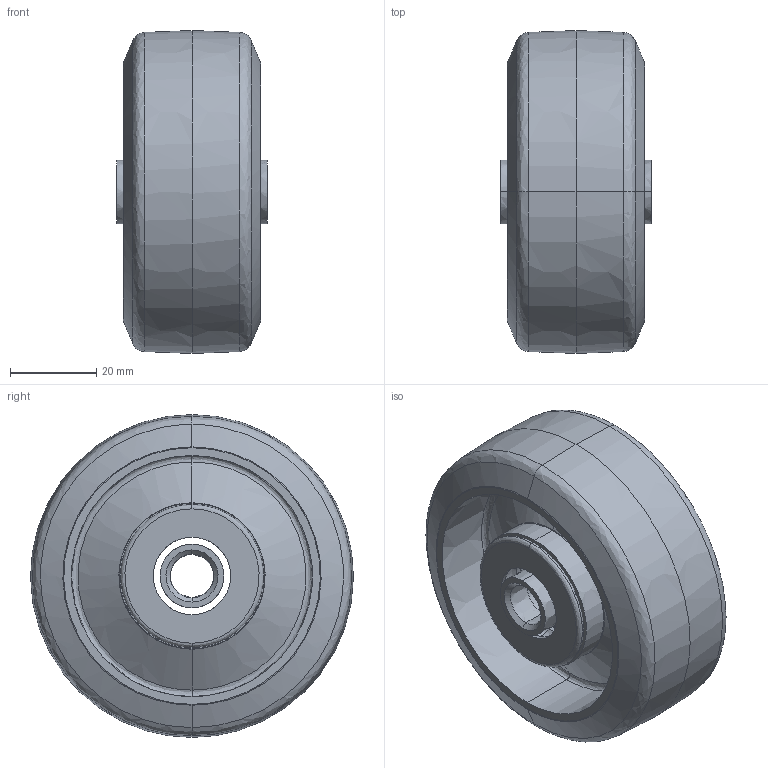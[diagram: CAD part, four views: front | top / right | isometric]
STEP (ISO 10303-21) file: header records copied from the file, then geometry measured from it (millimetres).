
FILE_DESCRIPTION (( 'STEP AP214' ), '1' );
FILE_NAME ('P-75W-3D_step.STEP', '2022-04-14T02:36:17', ( '' ), ( '' ), 'SwSTEP 2.0', 'SolidWorks 2010', '' );
FILE_SCHEMA (( 'AUTOMOTIVE_DESIGN' ));
Length unit declared in the file: millimetre
Products named in the file (5): P-75W-10; P-75W-11; P-75W-12; P-75W-13; P-75W-3D_step
Assembly tree (4 placements, depth 2):
  P-75W-3D_step
    P-75W-11
    P-75W-12
    P-75W-10
    P-75W-13
Bounding box: 35 x 74.99 x 75 mm (x, y, z)
Volume: 73466.5 mm3; surface area: 49234.1 mm2
Topology: 9 solids, 9 shells, 188 faces, 376 edges, 208 vertices
Faces by surface type: bspline 168, plane 20
Entity records: 30067 total; most frequent: CARTESIAN_POINT 27035, ORIENTED_EDGE 752, EDGE_CURVE 376, B_SPLINE_CURVE_WITH_KNOTS 280, VERTEX_POINT 208, EDGE_LOOP 208, FACE_OUTER_BOUND 188, ADVANCED_FACE 188
